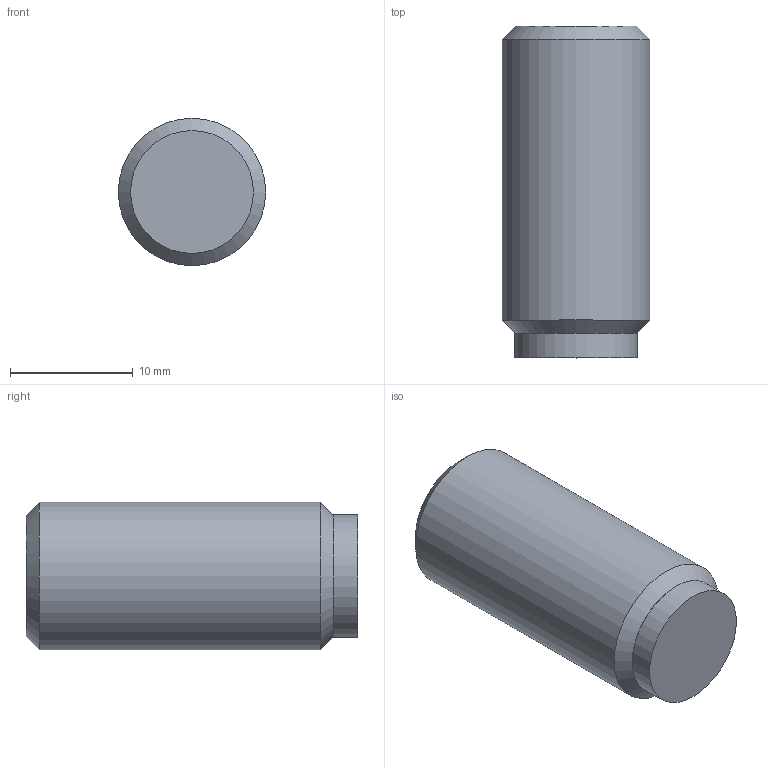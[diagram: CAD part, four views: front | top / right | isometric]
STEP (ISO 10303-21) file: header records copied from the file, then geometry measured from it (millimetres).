
FILE_DESCRIPTION( ( 'STEP AP203' ), '1' );
FILE_NAME( 'C:/Temp/Ganter_Step_05_03_2020/data/3_2/gn913_3/Grub screw GN 913.3-M12-25-MS.stp', '2020-03-13T05:35:53', ( 'License CC BY-ND 4.0' ), ( 'CADENAS' ), ' ', 'PARTsolutions', ' ' );
FILE_SCHEMA( ( 'CONFIG_CONTROL_DESIGN' ) );
Length unit declared in the file: millimetre
Products named in the file (1): _Grub screw GN 913.3-M12-25-MS
Bounding box: 12 x 27 x 12 mm (x, y, z)
Volume: 2694.2 mm3; surface area: 1352 mm2
Topology: 1 solids, 1 shells, 14 faces, 28 edges, 18 vertices
Faces by surface type: plane 10, cylinder 2, cone 2
Full cylindrical faces by diameter (mm): 10 x1, 12 x1
Entity records: 386 total; most frequent: DIRECTION 60, CARTESIAN_POINT 57, ORIENTED_EDGE 48, EDGE_CURVE 24, AXIS2_PLACEMENT_3D 21, EDGE_LOOP 20, VERTEX_POINT 18, LINE 18
